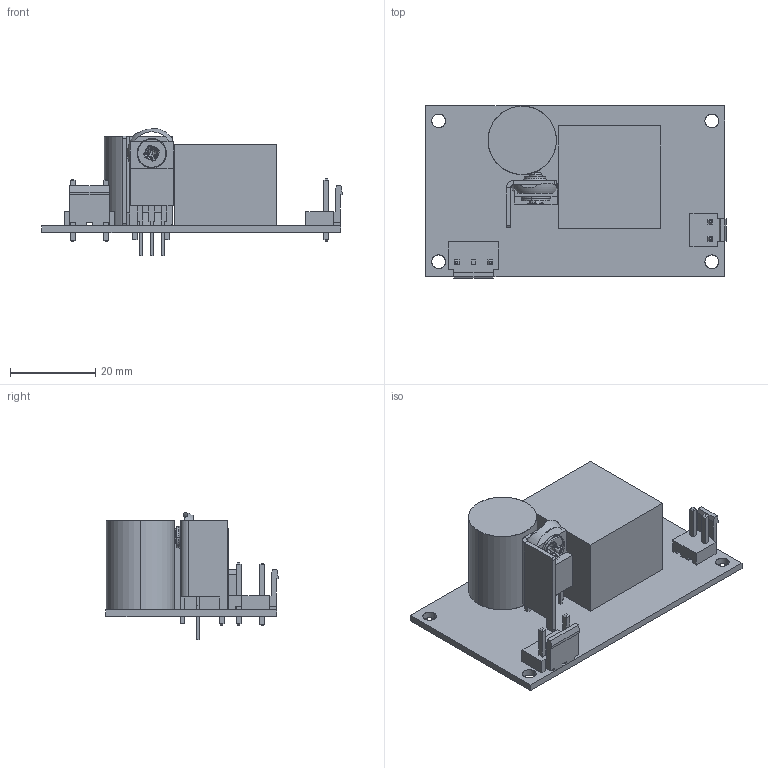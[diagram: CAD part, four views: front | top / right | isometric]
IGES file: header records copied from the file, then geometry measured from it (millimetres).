
Start section: SolidWorks IGES file using analytic representation for surfaces
Global section: file name: D:\SW\SNP-HF3\SNP-HF37-A.IGS; native system: SolidWorks 2014; preprocessor: SolidWorks 2014; author: mech4a; date: 141022.174355; units: millimetre
Bounding box: 70.37 x 40.34 x 29.83 mm (x, y, z)
Surface area: 13237.9 mm2 (no closed solid volume)
Topology: 0 solids, 0 shells, 262 faces, 2150 edges, 2150 vertices
Faces by surface type: bspline 229, revolution 33
